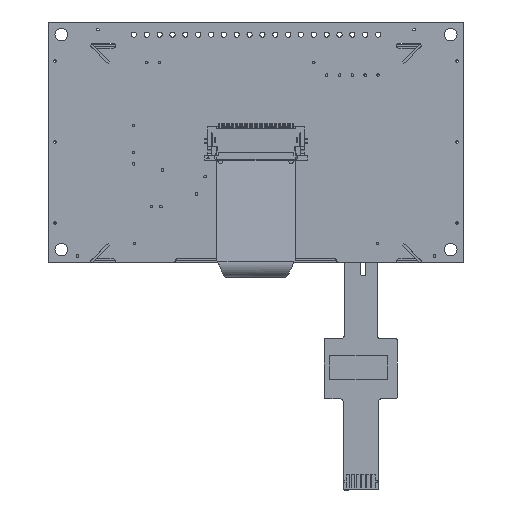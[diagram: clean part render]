
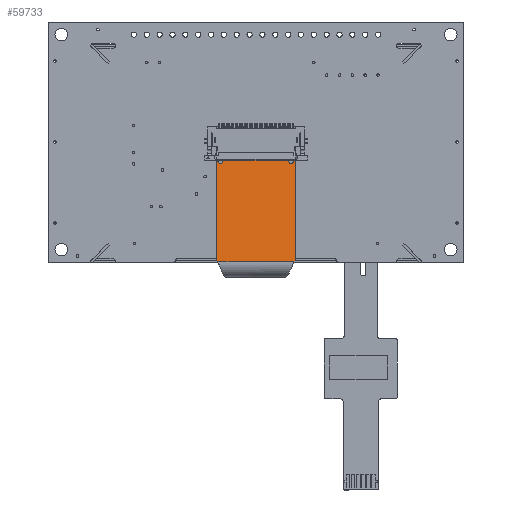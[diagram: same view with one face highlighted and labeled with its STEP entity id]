
A CAD part, top view. The second image highlights one B-rep face of the part: STEP entity #59733.
In plain terms, the highlighted planar face has unit normal (0, 0.113, 0.994).
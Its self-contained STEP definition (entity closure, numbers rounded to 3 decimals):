
#1068 = AXIS2_PLACEMENT_3D ( 'NONE', #13396, #51225, #30233 ) ;
#1224 = CARTESIAN_POINT ( 'NONE',  ( 28.784, 41.508, 68.158 ) ) ;
#2129 = VERTEX_POINT ( 'NONE', #21672 ) ;
#2314 = FACE_BOUND ( 'NONE', #16272, .T. ) ;
#2462 = EDGE_CURVE ( 'NONE', #64746, #39825, #28534, .T. ) ;
#2659 = DIRECTION ( 'NONE',  ( 0., 0.113, 0.994 ) ) ;
#3284 = CARTESIAN_POINT ( 'NONE',  ( 14.034, 28.763, 69.61 ) ) ;
#3359 = DIRECTION ( 'NONE',  ( 1., 0., 0. ) ) ;
#3469 = CARTESIAN_POINT ( 'NONE',  ( 14.294, 21.636, 70.422 ) ) ;
#4072 = CARTESIAN_POINT ( 'NONE',  ( 29.275, 21.636, 70.422 ) ) ;
#4774 = EDGE_CURVE ( 'NONE', #6135, #8298, #36370, .T. ) ;
#5522 = VERTEX_POINT ( 'NONE', #28543 ) ;
#6135 = VERTEX_POINT ( 'NONE', #4072 ) ;
#6889 = CARTESIAN_POINT ( 'NONE',  ( 19.201, 42.501, 68.045 ) ) ;
#7753 = ORIENTED_EDGE ( 'NONE', *, *, #12220, .T. ) ;
#8298 = VERTEX_POINT ( 'NONE', #25146 ) ;
#10937 = ORIENTED_EDGE ( 'NONE', *, *, #33991, .F. ) ;
#12220 = EDGE_CURVE ( 'NONE', #8298, #16559, #51577, .T. ) ;
#12636 = CARTESIAN_POINT ( 'NONE',  ( 14.034, 21.894, 70.393 ) ) ;
#12992 = CARTESIAN_POINT ( 'NONE',  ( 29.362, 21.722, 70.412 ) ) ;
#13396 = CARTESIAN_POINT ( 'NONE',  ( 14.784, 41.508, 68.158 ) ) ;
#13503 = DIRECTION ( 'NONE',  ( 0., 0.113, 0.994 ) ) ;
#13653 = CARTESIAN_POINT ( 'NONE',  ( 16.784, 18.655, 70.762 ) ) ;
#14014 = CARTESIAN_POINT ( 'NONE',  ( 29.275, 21.636, 70.422 ) ) ;
#14662 = ORIENTED_EDGE ( 'NONE', *, *, #19359, .T. ) ;
#16272 = EDGE_LOOP ( 'NONE', ( #38261, #41282 ) ) ;
#16559 = VERTEX_POINT ( 'NONE', #52733 ) ;
#18122 = CARTESIAN_POINT ( 'NONE',  ( 14.294, 21.636, 70.422 ) ) ;
#18479 = LINE ( 'NONE', #29479, #36752 ) ;
#18855 = ORIENTED_EDGE ( 'NONE', *, *, #4774, .T. ) ;
#19359 = EDGE_CURVE ( 'NONE', #42109, #6135, #18479, .T. ) ;
#19432 = CARTESIAN_POINT ( 'NONE',  ( 14.034, 21.894, 70.393 ) ) ;
#21093 = CARTESIAN_POINT ( 'NONE',  ( 29.534, 35.632, 68.827 ) ) ;
#21339 = EDGE_CURVE ( 'NONE', #39825, #64746, #63317, .T. ) ;
#21672 = CARTESIAN_POINT ( 'NONE',  ( 28.284, 41.508, 68.158 ) ) ;
#22181 = DIRECTION ( 'NONE',  ( 0., 0.994, -0.113 ) ) ;
#23547 = CARTESIAN_POINT ( 'NONE',  ( 14.034, 42.501, 68.045 ) ) ;
#23966 = CARTESIAN_POINT ( 'NONE',  ( 29.534, 21.894, 70.393 ) ) ;
#24585 = CIRCLE ( 'NONE', #63062, 0.5 ) ;
#25146 = CARTESIAN_POINT ( 'NONE',  ( 29.534, 21.894, 70.393 ) ) ;
#26833 = CARTESIAN_POINT ( 'NONE',  ( 24.368, 42.501, 68.045 ) ) ;
#27261 = B_SPLINE_CURVE_WITH_KNOTS ( 'NONE', 3,
 ( #23547, #39736, #3284, #19432 ),
 .UNSPECIFIED., .F., .F.,
 ( 4, 4 ),
 ( 0., 1. ),
 .UNSPECIFIED. ) ;
#28534 = CIRCLE ( 'NONE', #1068, 0.5 ) ;
#28543 = CARTESIAN_POINT ( 'NONE',  ( 14.034, 42.501, 68.045 ) ) ;
#29479 = CARTESIAN_POINT ( 'NONE',  ( 16.784, 21.636, 70.422 ) ) ;
#30233 = DIRECTION ( 'NONE',  ( 0., 0.994, -0.113 ) ) ;
#31607 = B_SPLINE_CURVE_WITH_KNOTS ( 'NONE', 3,
 ( #48839, #6889, #26833, #53352 ),
 .UNSPECIFIED., .F., .F.,
 ( 4, 4 ),
 ( 0., 1. ),
 .UNSPECIFIED. ) ;
#32440 = CARTESIAN_POINT ( 'NONE',  ( 29.534, 42.501, 68.045 ) ) ;
#32727 = ORIENTED_EDGE ( 'NONE', *, *, #52066, .F. ) ;
#33641 = AXIS2_PLACEMENT_3D ( 'NONE', #39326, #34153, #55149 ) ;
#33903 = VERTEX_POINT ( 'NONE', #64776 ) ;
#33991 = EDGE_CURVE ( 'NONE', #2129, #34719, #59847, .T. ) ;
#34153 = DIRECTION ( 'NONE',  ( 0., 0.113, 0.994 ) ) ;
#34639 = DIRECTION ( 'NONE',  ( -1., 0., 0. ) ) ;
#34719 = VERTEX_POINT ( 'NONE', #59441 ) ;
#34981 = CARTESIAN_POINT ( 'NONE',  ( 14.207, 21.722, 70.412 ) ) ;
#36370 = B_SPLINE_CURVE_WITH_KNOTS ( 'NONE', 3,
 ( #14014, #12992, #38797, #23966 ),
 .UNSPECIFIED., .F., .F.,
 ( 4, 4 ),
 ( 0., 1. ),
 .UNSPECIFIED. ) ;
#36750 = CARTESIAN_POINT ( 'NONE',  ( 15.284, 41.508, 68.158 ) ) ;
#36752 = VECTOR ( 'NONE', #3359, 1000. ) ;
#36807 = CARTESIAN_POINT ( 'NONE',  ( 14.284, 41.508, 68.158 ) ) ;
#37049 = ORIENTED_EDGE ( 'NONE', *, *, #51184, .F. ) ;
#38261 = ORIENTED_EDGE ( 'NONE', *, *, #21339, .F. ) ;
#38706 = DIRECTION ( 'NONE',  ( 0., 0.113, 0.994 ) ) ;
#38761 = EDGE_LOOP ( 'NONE', ( #10937, #37049 ) ) ;
#38797 = CARTESIAN_POINT ( 'NONE',  ( 29.448, 21.808, 70.402 ) ) ;
#39326 = CARTESIAN_POINT ( 'NONE',  ( 14.784, 41.508, 68.158 ) ) ;
#39736 = CARTESIAN_POINT ( 'NONE',  ( 14.034, 35.632, 68.827 ) ) ;
#39825 = VERTEX_POINT ( 'NONE', #36807 ) ;
#41282 = ORIENTED_EDGE ( 'NONE', *, *, #2462, .F. ) ;
#42109 = VERTEX_POINT ( 'NONE', #3469 ) ;
#43018 = ORIENTED_EDGE ( 'NONE', *, *, #59653, .T. ) ;
#44253 = AXIS2_PLACEMENT_3D ( 'NONE', #13653, #2659, #34639 ) ;
#44807 = CARTESIAN_POINT ( 'NONE',  ( 28.784, 41.508, 68.158 ) ) ;
#45152 = DIRECTION ( 'NONE',  ( 0., 0.994, -0.113 ) ) ;
#48839 = CARTESIAN_POINT ( 'NONE',  ( 14.034, 42.501, 68.045 ) ) ;
#48845 = AXIS2_PLACEMENT_3D ( 'NONE', #44807, #13503, #45152 ) ;
#50452 = FACE_OUTER_BOUND ( 'NONE', #60891, .T. ) ;
#51184 = EDGE_CURVE ( 'NONE', #34719, #2129, #24585, .T. ) ;
#51225 = DIRECTION ( 'NONE',  ( 0., 0.113, 0.994 ) ) ;
#51577 = B_SPLINE_CURVE_WITH_KNOTS ( 'NONE', 3,
 ( #59254, #64083, #21093, #32440 ),
 .UNSPECIFIED., .F., .F.,
 ( 4, 4 ),
 ( 0., 1. ),
 .UNSPECIFIED. ) ;
#52054 = ORIENTED_EDGE ( 'NONE', *, *, #54049, .T. ) ;
#52066 = EDGE_CURVE ( 'NONE', #5522, #16559, #31607, .T. ) ;
#52733 = CARTESIAN_POINT ( 'NONE',  ( 29.534, 42.501, 68.045 ) ) ;
#53352 = CARTESIAN_POINT ( 'NONE',  ( 29.534, 42.501, 68.045 ) ) ;
#54049 = EDGE_CURVE ( 'NONE', #5522, #33903, #27261, .T. ) ;
#54950 = FACE_BOUND ( 'NONE', #38761, .T. ) ;
#55149 = DIRECTION ( 'NONE',  ( 0., 0.994, -0.113 ) ) ;
#55997 = B_SPLINE_CURVE_WITH_KNOTS ( 'NONE', 3,
 ( #12636, #59749, #34981, #18122 ),
 .UNSPECIFIED., .F., .F.,
 ( 4, 4 ),
 ( 0., 1. ),
 .UNSPECIFIED. ) ;
#59254 = CARTESIAN_POINT ( 'NONE',  ( 29.534, 21.894, 70.393 ) ) ;
#59441 = CARTESIAN_POINT ( 'NONE',  ( 29.284, 41.508, 68.158 ) ) ;
#59653 = EDGE_CURVE ( 'NONE', #33903, #42109, #55997, .T. ) ;
#59733 = ADVANCED_FACE ( 'NONE', ( #50452, #2314, #54950 ), #65943, .T. ) ;
#59749 = CARTESIAN_POINT ( 'NONE',  ( 14.121, 21.808, 70.402 ) ) ;
#59847 = CIRCLE ( 'NONE', #48845, 0.5 ) ;
#60891 = EDGE_LOOP ( 'NONE', ( #32727, #52054, #43018, #14662, #18855, #7753 ) ) ;
#63062 = AXIS2_PLACEMENT_3D ( 'NONE', #1224, #38706, #22181 ) ;
#63317 = CIRCLE ( 'NONE', #33641, 0.5 ) ;
#64083 = CARTESIAN_POINT ( 'NONE',  ( 29.534, 28.763, 69.61 ) ) ;
#64746 = VERTEX_POINT ( 'NONE', #36750 ) ;
#64776 = CARTESIAN_POINT ( 'NONE',  ( 14.034, 21.894, 70.393 ) ) ;
#65943 = PLANE ( 'NONE',  #44253 ) ;
